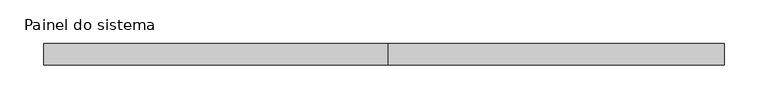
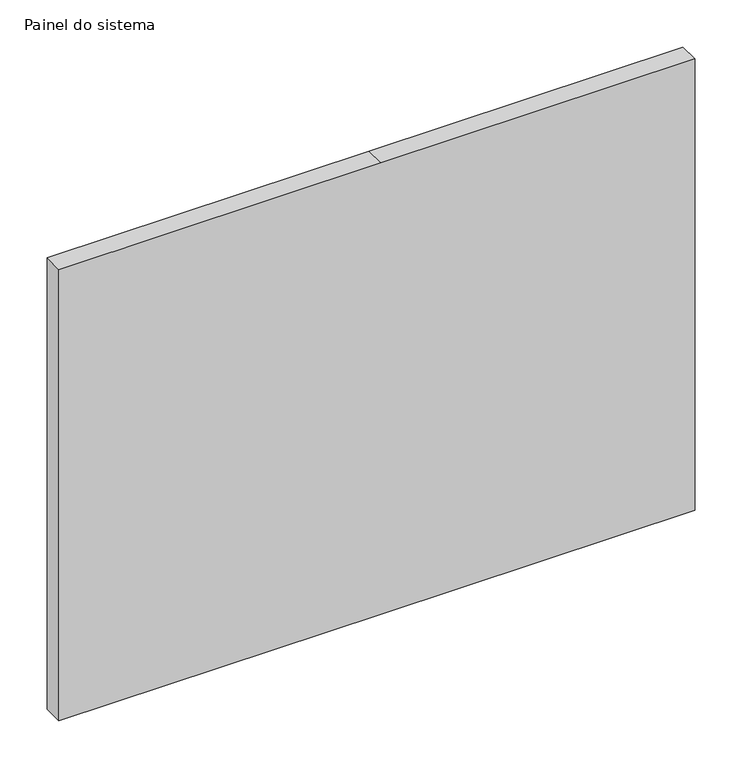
"""IFC4 building model written with IfcOpenShell, lengths in millimetres: plate geometry, Painel do sistema : Envidraçado."""

import ifcopenshell
import ifcopenshell.guid

model = None  # the IFC model being written
_history = None  # IfcOwnerHistory: only IFC2X3 demands one
_inside = {}  # id of a spatial element -> (the spatial element, [elements in it])
_under = {}  # id of a project, library or spatial element -> (it, [spatial elements below it])
_declared = {}  # id of a project -> (the project, [libraries it declares])
_typed = {}  # id of a type object -> (the type object, [elements of that type])
_made_of = {}  # id of a material, layer set ... -> (it, [elements and type objects made of it])


def new_model(schema):
    """Start an empty IFC model of exactly this schema.

    Asked for "IFC4X3", IfcOpenShell would pick the latest addendum, in which some entities
    have other attributes; the version numbers below select the first issue.
    IFC2X3 requires an IfcOwnerHistory on every rooted entity: one is made here for all.
    """
    global model, _history
    if schema == "IFC4X3":
        model = ifcopenshell.file(schema_version=(4, 3, 0, 0))
    else:
        model = ifcopenshell.file(schema=schema)
    _inside.clear()
    _under.clear()
    _declared.clear()
    _typed.clear()
    _made_of.clear()
    _history = None
    if model.schema == "IFC2X3":
        org = make("IfcOrganization", Name="unknown")
        user = make(
            "IfcPersonAndOrganization",
            ThePerson=make("IfcPerson", FamilyName="unknown"),
            TheOrganization=org,
        )
        app = make(
            "IfcApplication",
            ApplicationDeveloper=org,
            Version="unknown",
            ApplicationFullName="unknown",
            ApplicationIdentifier="unknown",
        )
        _history = make(
            "IfcOwnerHistory",
            OwningUser=user,
            OwningApplication=app,
            ChangeAction="ADDED",
            CreationDate=0,
        )
    return model


def make(cls, **values):
    """One entity of the class cls with the attributes given. An attribute that is None is left unset."""
    return model.create_entity(
        cls, **{name: value for name, value in values.items() if value is not None}
    )


def rooted(cls, **values):
    """An entity with a GlobalId (a new one), such as an element, a storey or a relation."""
    return make(cls, GlobalId=ifcopenshell.guid.new(), OwnerHistory=_history, **values)


def si_unit(unit_type, name, prefix=None):
    """IfcSIUnit, for example si_unit("LENGTHUNIT", "METRE", prefix="MILLI")."""
    return make("IfcSIUnit", UnitType=unit_type, Prefix=prefix, Name=name)


def assignment(units):
    """IfcUnitAssignment: the units of a project."""
    return None if units is None else make("IfcUnitAssignment", Units=units)


def point(xyz):
    """IfcCartesianPoint."""
    return None if xyz is None else make("IfcCartesianPoint", Coordinates=xyz)


def direction(xyz):
    """IfcDirection."""
    return None if xyz is None else make("IfcDirection", DirectionRatios=xyz)


def frame(location, z_axis=None, x_axis=None):
    """IfcAxis2Placement3D, a coordinate frame: its origin and axes. An axis left out is left unset."""
    return make(
        "IfcAxis2Placement3D",
        Location=point(location),
        Axis=direction(z_axis),
        RefDirection=direction(x_axis),
    )


def origin():
    """The frame at (0, 0, 0) with its axes left unset."""
    return frame((0.0, 0.0, 0.0))


def place(relative_to, where):
    """IfcLocalPlacement: puts the frame where relative to a parent placement (None: the world)."""
    return make(
        "IfcLocalPlacement", PlacementRelTo=relative_to, RelativePlacement=where
    )


def context(
    kind, dimensions, precision=None, world=None, true_north=None, identifier=None
):
    """IfcGeometricRepresentationContext, for example the 3D "Model" context."""
    return make(
        "IfcGeometricRepresentationContext",
        ContextIdentifier=identifier,
        ContextType=kind,
        CoordinateSpaceDimension=dimensions,
        Precision=precision,
        WorldCoordinateSystem=world,
        TrueNorth=true_north,
    )


def project(units=None, contexts=None):
    """IfcProject with its units and contexts."""
    return rooted(
        "IfcProject",
        Name="project",
        RepresentationContexts=contexts,
        UnitsInContext=assignment(units),
    )


def spatial(cls, under=None, at=None, **own):
    """A site, building, storey or space (cls), placed at a placement, below another one or the project."""
    s = rooted(cls, ObjectPlacement=at, **own)
    if under is not None:
        _under.setdefault(under.id(), (under, []))[1].append(s)
    return s


def polyline(points):
    """IfcPolyline through the points."""
    return make("IfcPolyline", Points=[point(p) for p in points])


def outline(outer, holes=None, kind="AREA"):
    """IfcArbitraryClosedProfileDef: a profile drawn as a closed curve; with holes, ...WithVoids."""
    if holes is None:
        return make("IfcArbitraryClosedProfileDef", ProfileType=kind, OuterCurve=outer)
    return make(
        "IfcArbitraryProfileDefWithVoids",
        ProfileType=kind,
        OuterCurve=outer,
        InnerCurves=holes,
    )


def extrude(swept, where, along, depth):
    """IfcExtrudedAreaSolid: the profile swept, set in the frame where, extruded along a direction by depth."""
    return make(
        "IfcExtrudedAreaSolid",
        SweptArea=swept,
        Position=where,
        ExtrudedDirection=direction(along),
        Depth=depth,
    )


def shape(context_of_items, identifier, shape_type, items):
    """IfcShapeRepresentation: the items that make up one representation, for example the "Body"."""
    return make(
        "IfcShapeRepresentation",
        ContextOfItems=context_of_items,
        RepresentationIdentifier=identifier,
        RepresentationType=shape_type,
        Items=items,
    )


def source(mapping_origin, context_of_items, identifier, shape_type, items):
    """IfcRepresentationMap: a shape defined once, which mapped items show again and again."""
    return make(
        "IfcRepresentationMap",
        MappingOrigin=mapping_origin,
        MappedRepresentation=shape(context_of_items, identifier, shape_type, items),
    )


def transform(
    local_origin,
    x_axis=None,
    y_axis=None,
    z_axis=None,
    scale=None,
    scale2=None,
    scale3=None,
    uniform=True,
):
    """IfcCartesianTransformationOperator3D, or its non-uniform kind. x_axis, y_axis, z_axis: its Axis1, 2, 3."""
    if uniform:
        return make(
            "IfcCartesianTransformationOperator3D",
            Axis1=direction(x_axis),
            Axis2=direction(y_axis),
            LocalOrigin=point(local_origin),
            Scale=scale,
            Axis3=direction(z_axis),
        )
    return make(
        "IfcCartesianTransformationOperator3DnonUniform",
        Axis1=direction(x_axis),
        Axis2=direction(y_axis),
        LocalOrigin=point(local_origin),
        Scale=scale,
        Axis3=direction(z_axis),
        Scale2=scale2,
        Scale3=scale3,
    )


def mapped(mapping_source, mapping_target):
    """IfcMappedItem: shows the shape of a source again, moved by a transform."""
    return make(
        "IfcMappedItem", MappingSource=mapping_source, MappingTarget=mapping_target
    )


def made_of(thing, what):
    """Note that an element or type object is made of a material, layer set ...; save() writes the relation."""
    if what is not None:
        _made_of.setdefault(what.id(), (what, []))[1].append(thing)
    return thing


def element(
    cls,
    number,
    at=None,
    inside=None,
    cuts=None,
    type_object=None,
    material=None,
    context=None,
    identifier="Body",
    shape_type=None,
    held_by="IfcProductDefinitionShape",
    body=None,
    shapes=None,
    **own,
):
    """One element of the class cls, such as IfcWall. Its Tag is "e" and its number.

    at: its placement. inside: the storey or other place that contains it. cuts: it is an
    opening in that element (IfcRelVoidsElement). A single representation is given by context,
    identifier, shape_type and body (its items); several are given by shapes. held_by: the class
    of the entity that holds the representations. save() writes the other relations.
    """
    e = rooted(cls, Tag="e%d" % number, ObjectPlacement=at, **own)
    if body is not None:
        shapes = [shape(context, identifier, shape_type, body)]
    if shapes is not None:
        e.Representation = make(held_by, Representations=shapes)
    if inside is not None:
        _inside.setdefault(inside.id(), (inside, []))[1].append(e)
    if cuts is not None:
        rooted(
            "IfcRelVoidsElement", RelatingBuildingElement=cuts, RelatedOpeningElement=e
        )
    if type_object is not None:
        _typed.setdefault(type_object.id(), (type_object, []))[1].append(e)
    return made_of(e, material)


def aggregate(whole, parts):
    """IfcRelAggregates: a whole, such as a stair, and the parts it consists of."""
    return rooted("IfcRelAggregates", RelatingObject=whole, RelatedObjects=parts)


def save(model, path):
    """Write the relations noted so far, then the file.

    IfcRelAggregates (storeys below a building ...), IfcRelContainedInSpatialStructure (elements
    in a storey), IfcRelDefinesByType, IfcRelAssociatesMaterial and IfcRelDeclares: one each for
    every whole, place, type object, material and project.
    """
    for whole, parts in _under.values():
        aggregate(whole, parts)
    for where, things in _inside.values():
        rooted(
            "IfcRelContainedInSpatialStructure",
            RelatedElements=things,
            RelatingStructure=where,
        )
    for kind, things in _typed.values():
        rooted("IfcRelDefinesByType", RelatedObjects=things, RelatingType=kind)
    for what, things in _made_of.values():
        rooted("IfcRelAssociatesMaterial", RelatedObjects=things, RelatingMaterial=what)
    for by, libraries in _declared.values():
        rooted("IfcRelDeclares", RelatingContext=by, RelatedDefinitions=libraries)
    model.write(path)


def painel_do_sistema_badfbcfc(model_context):
    return source(origin(), model_context, "Body", "SweptSolid", [
        extrude(outline(polyline([(0.0, -390.0), (0.0, 5.0), (0.0, 390.0), (585.0, 390.0), (585.0, 5.0), (585.0, -390.0), (0.0, -390.0)])), frame((0.0, 24.5, 0.0), z_axis=(0.0, 1.0, 0.0), x_axis=(0.0, 0.0, 1.0)), (0.0, 0.0, 1.0), 25.0),
    ])


if __name__ == "__main__":
    model = new_model("IFC4")
    model_context = context("Model", 3, world=origin())
    ifc_project = project(units=[si_unit("LENGTHUNIT", "METRE", prefix="MILLI")], contexts=[model_context])
    site = spatial("IfcSite", under=ifc_project)
    building = spatial("IfcBuilding", under=site)
    placement = place(None, origin())
    painel_do_sistema_shape = painel_do_sistema_badfbcfc(model_context)
    element("IfcPlate", 1, ObjectType="Painel do sistema : Envidraçado", at=placement, inside=building, context=model_context, shape_type="MappedRepresentation", body=[
        mapped(painel_do_sistema_shape, transform((0.0, 0.0, 0.0), x_axis=(1.0, 0.0, 0.0), y_axis=(0.0, 1.0, 0.0), z_axis=(0.0, 0.0, 1.0))),
    ])
    save(model, "model.ifc")
